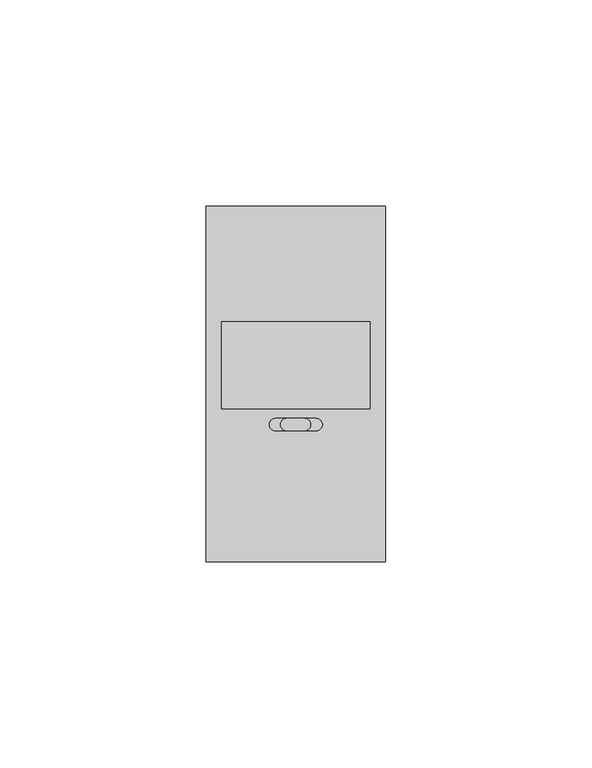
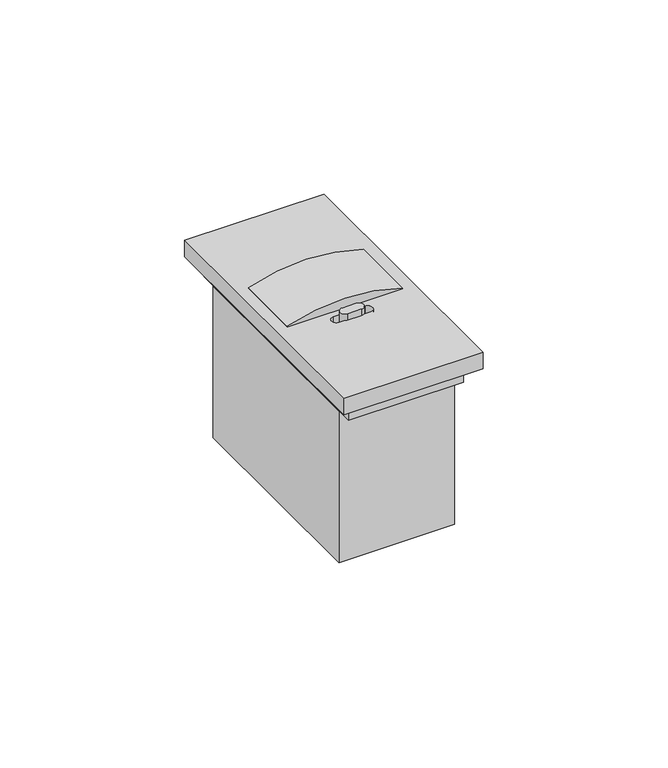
"""IFC4 building model written with IfcOpenShell, lengths in millimetres: switching device geometry, BT_LN-InterruttoreIR_K4430 : Interruttore IR - Art. K4430 - 2M - Cover Sabbia."""

from ifc_helpers import new_model, si_unit, point, frame, frame_2d, origin, origin_with_axes, place, context, project, spatial, polyline, circle_curve, trimmed, segment, composite_curve, outline, extrude, source, transform, mapped, element, save
from ifc_brep_helpers import plane_surface, revolved_surface, advanced_brep


def switching_device_ea576e52(model_context):
    return source(origin(), model_context, "Body", "SolidModel", [
        extrude(outline(polyline([(-18.0, 39.0), (18.0, 39.0), (18.0, -39.0), (-18.0, -39.0), (-18.0, 39.0)])), frame((0.0, 0.0, 50.0), z_axis=(0.0, 0.0, 1.0), x_axis=(1.0, 0.0, 0.0)), (0.0, 0.0, 1.0), 5.5),
        extrude(outline(polyline([(-18.0, 34.0), (18.0, 34.0), (18.0, -34.0), (-18.0, -34.0), (-18.0, 34.0)])), origin_with_axes(), (0.0, 0.0, 1.0), 50.0),
        extrude(outline(composite_curve([segment(trimmed(circle_curve(frame_2d((2.1108593, -9.8417901)), 1.5), [point((2.1108593, -8.3417901))], [point((2.1108593, -11.3417901))], False, "CARTESIAN"), True, "CONTINUOUS"), segment(polyline([(2.1108593, -11.3417901), (-2.2200559, -11.3417901)]), True, "CONTINUOUS"), segment(trimmed(circle_curve(frame_2d((-2.2200559, -9.8417901)), 1.5), [point((-2.2200559, -11.3417901))], [point((-2.2200559, -8.3417901))], False, "CARTESIAN"), True, "CONTINUOUS"), segment(polyline([(-2.2200559, -8.3417901), (2.1108593, -8.3417901)]), True, "CONTINUOUS")], self_intersect=False)), frame((0.0, 0.0, 56.5112665), z_axis=(0.0, 0.0, 1.0), x_axis=(1.0, 0.0, 0.0)), (0.0, 0.0, 1.0), 6.3859038),
        extrude(outline(composite_curve([segment(trimmed(circle_curve(frame_2d((8.9197297, 0.0)), 55.0802703), [point((60.9758165, 18.0))], [point((60.9758165, -18.0))], False, "CARTESIAN"), True, "CONTINUOUS"), segment(polyline([(60.9758165, -18.0), (55.5, -18.0), (55.5, 18.0), (60.9758165, 18.0)]), True, "CONTINUOUS")], self_intersect=False)), frame((0.0, -5.988463, 0.0), z_axis=(0.0, 1.0, 0.0), x_axis=(0.0, 0.0, 1.0)), (0.0, 0.0, 1.0), 21.0144386),
        advanced_brep(
        [(-21.7, -43.0, 61.0), (21.7, -43.0, 61.0), (21.7, 43.0, 61.0), (-21.7, 43.0, 61.0), (-18.0, 15.0259756, 61.0), (18.0, 15.0259756, 61.0), (18.0, -5.988463, 61.0), (-18.0, -5.988463, 61.0), (-4.9169963, -8.3417901, 61.0), (4.9184663, -8.3417901, 61.0), (4.9184663, -11.3417901, 61.0), (-4.9169963, -11.3417901, 61.0), (-21.7, -43.0, 55.5), (-21.7, 43.0, 55.5), (21.7, 43.0, 55.5), (21.7, -43.0, 55.5), (4.9184663, -8.3417901, 55.5), (-4.9169963, -8.3417901, 55.5), (-4.9169963, -11.3417901, 55.5), (4.9184663, -11.3417901, 55.5), (18.0, 15.0259756, 56.5112665), (-18.0, 15.0259756, 56.5112665), (-18.0, -5.988463, 56.5112665), (18.0, -5.988463, 56.5112665)],
        [
            (0, 1),
            (1, 2),
            (2, 3),
            (3, 0),
            (4, 5),
            (5, 6),
            (6, 7),
            (7, 4),
            (8, 9),
            (9, 10, circle_curve(frame((4.9184663, -9.8417901, 61.0), z_axis=(0.0, 0.0, -1.0), x_axis=(1.0, 0.0, 0.0)), 1.5)),
            (10, 11),
            (11, 8, circle_curve(frame((-4.9169963, -9.8417901, 61.0), z_axis=(0.0, 0.0, -1.0), x_axis=(1.0, 0.0, 0.0)), 1.5)),
            (12, 13),
            (13, 14),
            (14, 15),
            (15, 12),
            (16, 17),
            (17, 18, circle_curve(frame((-4.9169963, -9.8417901, 55.5), z_axis=(0.0, 0.0, 1.0), x_axis=(1.0, 0.0, 0.0)), 1.5)),
            (18, 19),
            (19, 16, circle_curve(frame((4.9184663, -9.8417901, 55.5), z_axis=(0.0, 0.0, 1.0), x_axis=(1.0, 0.0, 0.0)), 1.5)),
            (0, 12),
            (15, 1),
            (14, 2),
            (13, 3),
            (20, 21),
            (21, 22),
            (22, 23),
            (23, 20),
            (20, 5),
            (4, 21),
            (7, 22),
            (6, 23),
            (8, 17),
            (16, 9),
            (10, 19),
            (18, 11),
        ],
        [
            plane_surface(frame((21.7, -43.0, 61.0), z_axis=(0.0, 0.0, 1.0), x_axis=(1.0, 0.0, 0.0))),
            plane_surface(frame((21.7, -43.0, 55.5), z_axis=(0.0, 0.0, -1.0), x_axis=(-1.0, 0.0, 0.0))),
            plane_surface(frame((-21.7, -43.0, 61.0), z_axis=(0.0, -1.0, 0.0), x_axis=(0.0, 0.0, -1.0))),
            plane_surface(frame((21.7, -43.0, 61.0), z_axis=(1.0, 0.0, 0.0), x_axis=(0.0, 0.0, -1.0))),
            plane_surface(frame((21.7, 43.0, 61.0), z_axis=(0.0, 1.0, 0.0), x_axis=(0.0, 0.0, -1.0))),
            plane_surface(frame((-21.7, 43.0, 61.0), z_axis=(-1.0, 0.0, 0.0), x_axis=(0.0, 0.0, -1.0))),
            plane_surface(frame((-18.0, 15.0259756, 56.5112665), z_axis=(0.0, 0.0, 1.0), x_axis=(1.0, 0.0, 0.0))),
            plane_surface(frame((18.0, 15.0259756, 61.0), z_axis=(0.0, -1.0, 0.0), x_axis=(0.0, 0.0, -1.0))),
            plane_surface(frame((-18.0, 15.0259756, 61.0), z_axis=(1.0, 0.0, 0.0), x_axis=(0.0, 0.0, -1.0))),
            plane_surface(frame((-18.0, -5.988463, 61.0), z_axis=(0.0, 1.0, 0.0), x_axis=(0.0, 0.0, -1.0))),
            plane_surface(frame((18.0, -5.988463, 61.0), z_axis=(-1.0, 0.0, 0.0), x_axis=(0.0, 0.0, -1.0))),
            plane_surface(frame((4.9184663, -8.3417901, 61.0), z_axis=(0.0, -1.0, 0.0), x_axis=(0.0, 0.0, -1.0))),
            plane_surface(frame((-4.9169963, -11.3417901, 61.0), z_axis=(0.0, 1.0, 0.0), x_axis=(0.0, 0.0, -1.0))),
            revolved_surface(polyline([(6.4184663, -9.8417901, 61.0), (6.4184663, -9.8417901, 55.5)]), (4.9184663, -9.8417901, 55.5), (0.0, 0.0, 1.0)),
            revolved_surface(polyline([(-3.4169963, -9.8417901, 61.0), (-3.4169963, -9.8417901, 55.5)]), (-4.9169963, -9.8417901, 55.5), (0.0, 0.0, 1.0)),
        ],
        [
            (0, [[1, 2, 3, 4], [5, 6, 7, 8], [9, 10, 11, 12]]),
            (1, [[13, 14, 15, 16], [17, 18, 19, 20]]),
            (2, [[-1, 21, -16, 22]]),
            (3, [[-2, -22, -15, 23]]),
            (4, [[-3, -23, -14, 24]]),
            (5, [[-4, -24, -13, -21]]),
            (6, [[25, 26, 27, 28]]),
            (7, [[-25, 29, -5, 30]]),
            (8, [[-26, -30, -8, 31]]),
            (9, [[-27, -31, -7, 32]]),
            (10, [[-28, -32, -6, -29]]),
            (11, [[33, -17, 34, -9]]),
            (12, [[35, -19, 36, -11]]),
            (13, [[-34, -20, -35, -10]]),
            (14, [[-33, -12, -36, -18]]),
        ],
    ),
    ])


if __name__ == "__main__":
    model = new_model("IFC4")
    model_context = context("Model", 3, world=origin())
    ifc_project = project(units=[si_unit("LENGTHUNIT", "METRE", prefix="MILLI")], contexts=[model_context])
    site = spatial("IfcSite", under=ifc_project)
    building = spatial("IfcBuilding", under=site)
    placement = place(None, origin())
    switching_device_shape = switching_device_ea576e52(model_context)
    element("IfcSwitchingDevice", 1, ObjectType="BT_LN-InterruttoreIR_K4430 : Interruttore IR - Art. K4430 - 2M - Cover Sabbia", at=placement, inside=building, context=model_context, shape_type="MappedRepresentation", body=[
        mapped(switching_device_shape, transform((0.0, 0.0, 0.0), x_axis=(1.0, 0.0, 0.0), y_axis=(0.0, 1.0, 0.0), z_axis=(0.0, 0.0, 1.0))),
    ])
    save(model, "model.ifc")
